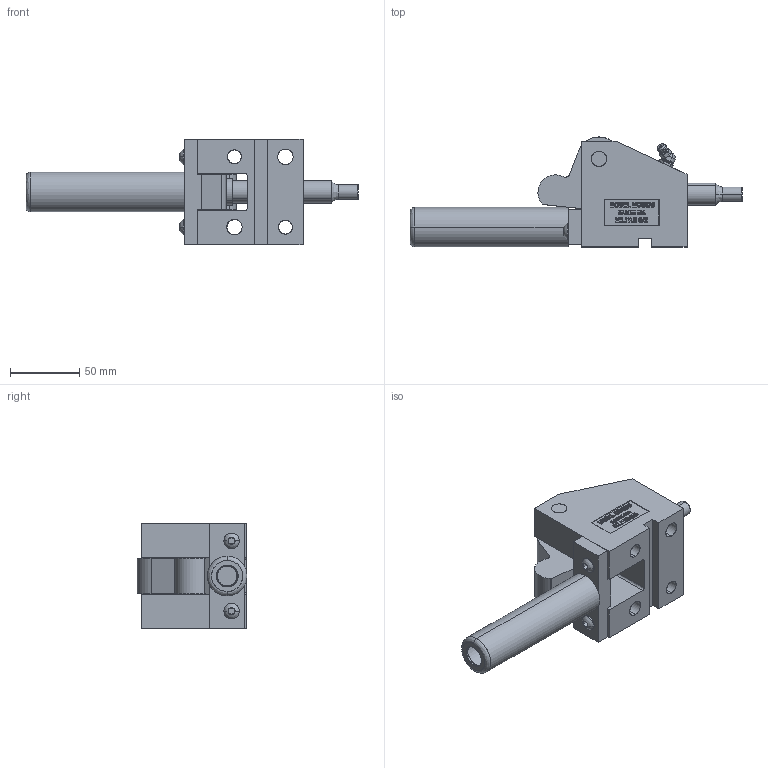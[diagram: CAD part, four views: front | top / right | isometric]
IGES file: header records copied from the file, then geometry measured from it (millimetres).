
Start section: SolidWorks IGES file using analytic representation for surfaces
Global section: file name: Y:\3\MOS62545\CLOSED\MOS62545-C.IGS; native system: SolidWorks 2006 by SolidWorks Corporation; preprocessor: SolidWorks 2006 by SolidWorks Corporation; author: Jim; date: 090127.093649; units: inch
Bounding box: 239.57 x 79.37 x 76.2 mm (x, y, z)
Surface area: 95106 mm2 (no closed solid volume)
Topology: 0 solids, 0 shells, 604 faces, 7771 edges, 7769 vertices
Faces by surface type: bspline 484, revolution 120
